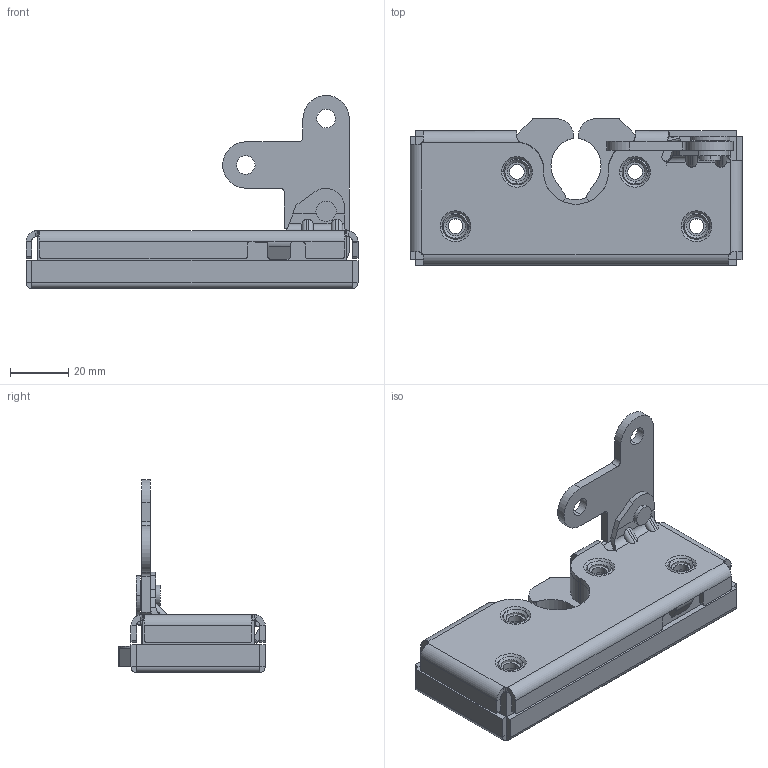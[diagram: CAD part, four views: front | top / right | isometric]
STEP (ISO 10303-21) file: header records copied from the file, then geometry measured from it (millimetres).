
FILE_DESCRIPTION((''),'2;1');
FILE_NAME('18611-01','2025-06-05T07:08:26',('GDE01'),(''),'CREO PARAMETRIC BY PTC INC, 2024014','CREO PARAMETRIC BY PTC INC, 2024014','');
FILE_SCHEMA(('CONFIG_CONTROL_DESIGN'));
Length unit declared in the file: inch
Products named in the file (1): 18611-01
Bounding box: 113.74 x 50.24 x 66.09 mm (x, y, z)
Volume: 74205.8 mm3; surface area: 44361.9 mm2
Topology: 2 solids, 12 shells, 1013 faces, 2570 edges, 1644 vertices
Faces by surface type: plane 655, cylinder 238, cone 76, bspline 32, torus 12
Entity records: 34958 total; most frequent: CARTESIAN_POINT 10353, ORIENTED_EDGE 5136, DIRECTION 4965, EDGE_CURVE 2570, VECTOR 1869, LINE 1869, VERTEX_POINT 1644, AXIS2_PLACEMENT_3D 1548
